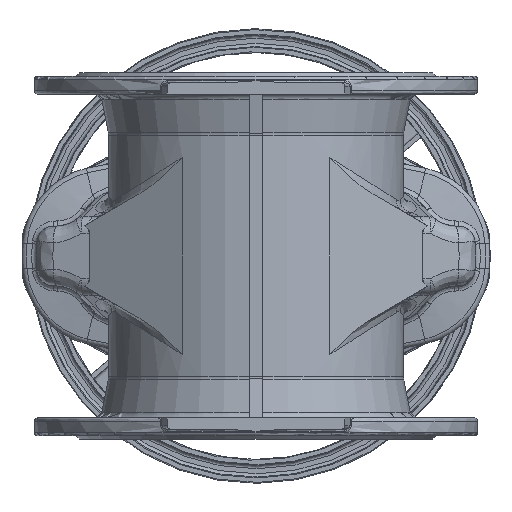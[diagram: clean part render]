
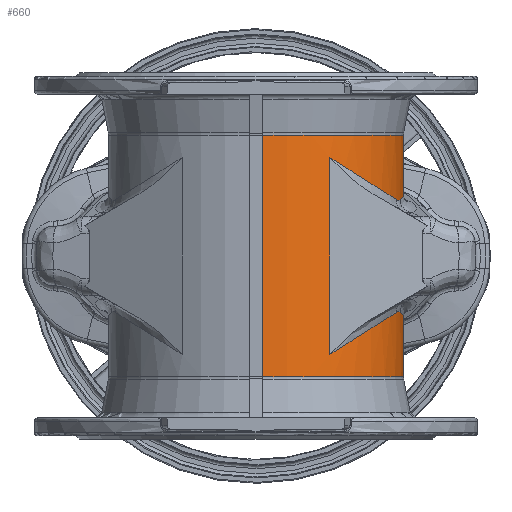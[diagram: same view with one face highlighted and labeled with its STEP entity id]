
A CAD part, front view. The second image highlights one B-rep face of the part: STEP entity #660.
In plain terms, the highlighted cylindrical face has radius 133 mm (diameter 266 mm), a partial arc.
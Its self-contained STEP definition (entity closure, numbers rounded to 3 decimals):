
#660 = ADVANCED_FACE ( 'NONE', ( #19492 ), #19503, .T. ) ;
#8181 = DIRECTION ( 'NONE',  ( 0., -1., 0. ) ) ;
#8185 = DIRECTION ( 'NONE',  ( 0., 0., 1. ) ) ;
#8186 = CARTESIAN_POINT ( 'NONE',  ( 0., 0., 0. ) ) ;
#9367 = AXIS2_PLACEMENT_3D ( 'NONE', #40514, #40515, #40516 ) ;
#9388 = AXIS2_PLACEMENT_3D ( 'NONE', #41323, #41324, #41325 ) ;
#15463 = AXIS2_PLACEMENT_3D ( 'NONE', #8186, #8185, #8181 ) ;
#19492 = FACE_OUTER_BOUND ( 'NONE', #30269, .T. ) ;
#19503 = CYLINDRICAL_SURFACE ( 'NONE', #15463, 133. ) ;
#25973 = VERTEX_POINT ( 'NONE', #38083 ) ;
#26020 = VERTEX_POINT ( 'NONE', #38130 ) ;
#26086 = VERTEX_POINT ( 'NONE', #38196 ) ;
#26092 = VERTEX_POINT ( 'NONE', #38202 ) ;
#26631 = VERTEX_POINT ( 'NONE', #39909 ) ;
#26632 = VERTEX_POINT ( 'NONE', #39910 ) ;
#26636 = VERTEX_POINT ( 'NONE', #39914 ) ;
#26637 = VERTEX_POINT ( 'NONE', #39915 ) ;
#26638 = VERTEX_POINT ( 'NONE', #39916 ) ;
#26639 = VERTEX_POINT ( 'NONE', #39917 ) ;
#26640 = VERTEX_POINT ( 'NONE', #39918 ) ;
#26644 = VERTEX_POINT ( 'NONE', #39922 ) ;
#30269 = EDGE_LOOP ( 'NONE', ( #34485, #34486, #34487, #34488, #34489, #34490, #34491, #34492, #34493, #34495, #34496, #34497 ) ) ;
#31962 = LINE ( 'NONE', #40510, #31966 ) ;
#31965 = CIRCLE ( 'NONE', #9367, 133. ) ;
#31966 = VECTOR ( 'NONE', #40511, 1000. ) ;
#31967 = LINE ( 'NONE', #40507, #31969 ) ;
#31969 = VECTOR ( 'NONE', #40506, 1000. ) ;
#31977 = LINE ( 'NONE', #40578, #31981 ) ;
#31981 = VECTOR ( 'NONE', #40579, 1000. ) ;
#32045 = CIRCLE ( 'NONE', #9388, 133. ) ;
#32046 = LINE ( 'NONE', #41316, #32047 ) ;
#32047 = VECTOR ( 'NONE', #41317, 1000. ) ;
#34485 = ORIENTED_EDGE ( 'NONE', *, *, #43193, .F. ) ;
#34486 = ORIENTED_EDGE ( 'NONE', *, *, #43192, .T. ) ;
#34487 = ORIENTED_EDGE ( 'NONE', *, *, #43191, .F. ) ;
#34488 = ORIENTED_EDGE ( 'NONE', *, *, #43190, .T. ) ;
#34489 = ORIENTED_EDGE ( 'NONE', *, *, #43189, .T. ) ;
#34490 = ORIENTED_EDGE ( 'NONE', *, *, #43188, .T. ) ;
#34491 = ORIENTED_EDGE ( 'NONE', *, *, #43205, .F. ) ;
#34492 = ORIENTED_EDGE ( 'NONE', *, *, #43289, .F. ) ;
#34493 = ORIENTED_EDGE ( 'NONE', *, *, #43288, .F. ) ;
#34495 = ORIENTED_EDGE ( 'NONE', *, *, #43287, .F. ) ;
#34496 = ORIENTED_EDGE ( 'NONE', *, *, #43286, .T. ) ;
#34497 = ORIENTED_EDGE ( 'NONE', *, *, #43285, .F. ) ;
#38083 = CARTESIAN_POINT ( 'NONE',  ( 6., -132.865, 108.833 ) ) ;
#38130 = CARTESIAN_POINT ( 'NONE',  ( 6., 132.865, -77.968 ) ) ;
#38196 = CARTESIAN_POINT ( 'NONE',  ( 129.881, -28.633, 50.842 ) ) ;
#38202 = CARTESIAN_POINT ( 'NONE',  ( 126.687, -40.488, -50.844 ) ) ;
#39909 = CARTESIAN_POINT ( 'NONE',  ( 6., 132.865, 77.968 ) ) ;
#39910 = CARTESIAN_POINT ( 'NONE',  ( 126.687, -40.488, 50.844 ) ) ;
#39914 = CARTESIAN_POINT ( 'NONE',  ( 6., -132.865, -108.833 ) ) ;
#39915 = CARTESIAN_POINT ( 'NONE',  ( 6., 132.865, -108.833 ) ) ;
#39916 = CARTESIAN_POINT ( 'NONE',  ( 66.5, -115.181, 88.729 ) ) ;
#39917 = CARTESIAN_POINT ( 'NONE',  ( 129.881, -28.633, -50.842 ) ) ;
#39918 = CARTESIAN_POINT ( 'NONE',  ( 66.5, -115.181, -88.729 ) ) ;
#39922 = CARTESIAN_POINT ( 'NONE',  ( 6., 132.865, 108.833 ) ) ;
#40467 = CARTESIAN_POINT ( 'NONE',  ( 129.881, -28.633, -50.842 ) ) ;
#40468 = CARTESIAN_POINT ( 'NONE',  ( 129.44, -30.633, -50.544 ) ) ;
#40491 = CARTESIAN_POINT ( 'NONE',  ( 126.687, -40.488, -50.844 ) ) ;
#40492 = CARTESIAN_POINT ( 'NONE',  ( 116.496, -72.376, -57.259 ) ) ;
#40496 = CARTESIAN_POINT ( 'NONE',  ( 95.492, -98.443, -70.48 ) ) ;
#40497 = CARTESIAN_POINT ( 'NONE',  ( 66.5, -115.181, -88.729 ) ) ;
#40498 = CARTESIAN_POINT ( 'NONE',  ( 6., 132.865, -77.968 ) ) ;
#40499 = CARTESIAN_POINT ( 'NONE',  ( 94.883, 128.851, -75.645 ) ) ;
#40500 = CARTESIAN_POINT ( 'NONE',  ( 128.954, -32.622, -50.363 ) ) ;
#40501 = CARTESIAN_POINT ( 'NONE',  ( 128.155, -35.585, -50.33 ) ) ;
#40502 = CARTESIAN_POINT ( 'NONE',  ( 127.878, -36.57, -50.359 ) ) ;
#40503 = CARTESIAN_POINT ( 'NONE',  ( 127.3, -38.534, -50.518 ) ) ;
#40504 = CARTESIAN_POINT ( 'NONE',  ( 126.999, -39.513, -50.648 ) ) ;
#40505 = CARTESIAN_POINT ( 'NONE',  ( 126.687, -40.488, -50.844 ) ) ;
#40506 = DIRECTION ( 'NONE',  ( 0., 0., 1. ) ) ;
#40507 = CARTESIAN_POINT ( 'NONE',  ( 6., -132.865, 0. ) ) ;
#40508 = CARTESIAN_POINT ( 'NONE',  ( 149.036, 58.255, -63.787 ) ) ;
#40509 = CARTESIAN_POINT ( 'NONE',  ( 129.881, -28.633, -50.842 ) ) ;
#40510 = CARTESIAN_POINT ( 'NONE',  ( 6., 132.865, 0. ) ) ;
#40511 = DIRECTION ( 'NONE',  ( 0., 0., -1. ) ) ;
#40514 = CARTESIAN_POINT ( 'NONE',  ( 0., 0., -108.833 ) ) ;
#40515 = DIRECTION ( 'NONE',  ( 0., 0., 1. ) ) ;
#40516 = DIRECTION ( 'NONE',  ( 0., -1., 0. ) ) ;
#40578 = CARTESIAN_POINT ( 'NONE',  ( 66.5, -115.181, 0. ) ) ;
#40579 = DIRECTION ( 'NONE',  ( 0., 0., -1. ) ) ;
#40639 =( BOUNDED_CURVE ( )  B_SPLINE_CURVE ( 3, ( #40491, #40492, #40496, #40497 ),
 .UNSPECIFIED., .F., .F. ) 
 B_SPLINE_CURVE_WITH_KNOTS ( ( 4, 4 ),
 ( 3.451, 4.189 ),
 .UNSPECIFIED. ) 
 CURVE ( )  GEOMETRIC_REPRESENTATION_ITEM ( )  RATIONAL_B_SPLINE_CURVE ( ( 1., 0.955, 0.955, 1. ) ) 
 REPRESENTATION_ITEM ( '' )  );
#40640 = B_SPLINE_CURVE_WITH_KNOTS ( 'NONE', 3,
 ( #40467, #40468, #40500, #40501, #40502, #40503, #40504, #40505 ),
 .UNSPECIFIED., .F., .F.,
 ( 4, 2, 2, 4 ),
 ( 0., 0.006, 0.009, 0.012 ),
 .UNSPECIFIED. ) ;
#40641 =( BOUNDED_CURVE ( )  B_SPLINE_CURVE ( 3, ( #40498, #40499, #40508, #40509 ),
 .UNSPECIFIED., .F., .F. ) 
 B_SPLINE_CURVE_WITH_KNOTS ( ( 4, 4 ),
 ( 0.17, 1.913 ),
 .UNSPECIFIED. ) 
 CURVE ( )  GEOMETRIC_REPRESENTATION_ITEM ( )  RATIONAL_B_SPLINE_CURVE ( ( 1., 0.763, 0.763, 1. ) ) 
 REPRESENTATION_ITEM ( '' )  );
#40685 =( BOUNDED_CURVE ( )  B_SPLINE_CURVE ( 3, ( #41321, #41322, #41328, #41329 ),
 .UNSPECIFIED., .F., .F. ) 
 B_SPLINE_CURVE_WITH_KNOTS ( ( 4, 4 ),
 ( 0.17, 1.913 ),
 .UNSPECIFIED. ) 
 CURVE ( )  GEOMETRIC_REPRESENTATION_ITEM ( )  RATIONAL_B_SPLINE_CURVE ( ( 1., 0.763, 0.763, 1. ) ) 
 REPRESENTATION_ITEM ( '' )  );
#40686 = B_SPLINE_CURVE_WITH_KNOTS ( 'NONE', 3,
 ( #41327, #41326, #41332, #41333, #41334, #41335, #41336, #41337 ),
 .UNSPECIFIED., .F., .F.,
 ( 4, 2, 2, 4 ),
 ( 0., 0.006, 0.009, 0.012 ),
 .UNSPECIFIED. ) ;
#40687 =( BOUNDED_CURVE ( )  B_SPLINE_CURVE ( 3, ( #41331, #41330, #41340, #41341 ),
 .UNSPECIFIED., .F., .F. ) 
 B_SPLINE_CURVE_WITH_KNOTS ( ( 4, 4 ),
 ( 3.451, 4.189 ),
 .UNSPECIFIED. ) 
 CURVE ( )  GEOMETRIC_REPRESENTATION_ITEM ( )  RATIONAL_B_SPLINE_CURVE ( ( 1., 0.955, 0.955, 1. ) ) 
 REPRESENTATION_ITEM ( '' )  );
#41316 = CARTESIAN_POINT ( 'NONE',  ( 6., 132.865, 0. ) ) ;
#41317 = DIRECTION ( 'NONE',  ( 0., 0., 1. ) ) ;
#41321 = CARTESIAN_POINT ( 'NONE',  ( 6., 132.865, 77.968 ) ) ;
#41322 = CARTESIAN_POINT ( 'NONE',  ( 94.883, 128.851, 75.645 ) ) ;
#41323 = CARTESIAN_POINT ( 'NONE',  ( 0., 0., 108.833 ) ) ;
#41324 = DIRECTION ( 'NONE',  ( 0., 0., 1. ) ) ;
#41325 = DIRECTION ( 'NONE',  ( 0., -1., 0. ) ) ;
#41326 = CARTESIAN_POINT ( 'NONE',  ( 129.44, -30.633, 50.544 ) ) ;
#41327 = CARTESIAN_POINT ( 'NONE',  ( 129.881, -28.633, 50.842 ) ) ;
#41328 = CARTESIAN_POINT ( 'NONE',  ( 149.036, 58.255, 63.787 ) ) ;
#41329 = CARTESIAN_POINT ( 'NONE',  ( 129.881, -28.633, 50.842 ) ) ;
#41330 = CARTESIAN_POINT ( 'NONE',  ( 116.496, -72.376, 57.259 ) ) ;
#41331 = CARTESIAN_POINT ( 'NONE',  ( 126.687, -40.488, 50.844 ) ) ;
#41332 = CARTESIAN_POINT ( 'NONE',  ( 128.954, -32.622, 50.363 ) ) ;
#41333 = CARTESIAN_POINT ( 'NONE',  ( 128.155, -35.585, 50.33 ) ) ;
#41334 = CARTESIAN_POINT ( 'NONE',  ( 127.878, -36.57, 50.359 ) ) ;
#41335 = CARTESIAN_POINT ( 'NONE',  ( 127.3, -38.534, 50.518 ) ) ;
#41336 = CARTESIAN_POINT ( 'NONE',  ( 126.999, -39.513, 50.648 ) ) ;
#41337 = CARTESIAN_POINT ( 'NONE',  ( 126.687, -40.488, 50.844 ) ) ;
#41340 = CARTESIAN_POINT ( 'NONE',  ( 95.492, -98.443, 70.48 ) ) ;
#41341 = CARTESIAN_POINT ( 'NONE',  ( 66.5, -115.181, 88.729 ) ) ;
#43188 = EDGE_CURVE ( 'NONE', #26092, #26640, #40639, .T. ) ;
#43189 = EDGE_CURVE ( 'NONE', #26639, #26092, #40640, .T. ) ;
#43190 = EDGE_CURVE ( 'NONE', #26020, #26639, #40641, .T. ) ;
#43191 = EDGE_CURVE ( 'NONE', #26020, #26637, #31962, .T. ) ;
#43192 = EDGE_CURVE ( 'NONE', #26636, #26637, #31965, .T. ) ;
#43193 = EDGE_CURVE ( 'NONE', #26636, #25973, #31967, .T. ) ;
#43205 = EDGE_CURVE ( 'NONE', #26638, #26640, #31977, .T. ) ;
#43285 = EDGE_CURVE ( 'NONE', #25973, #26644, #32045, .T. ) ;
#43286 = EDGE_CURVE ( 'NONE', #26631, #26644, #32046, .T. ) ;
#43287 = EDGE_CURVE ( 'NONE', #26631, #26086, #40685, .T. ) ;
#43288 = EDGE_CURVE ( 'NONE', #26086, #26632, #40686, .T. ) ;
#43289 = EDGE_CURVE ( 'NONE', #26632, #26638, #40687, .T. ) ;
